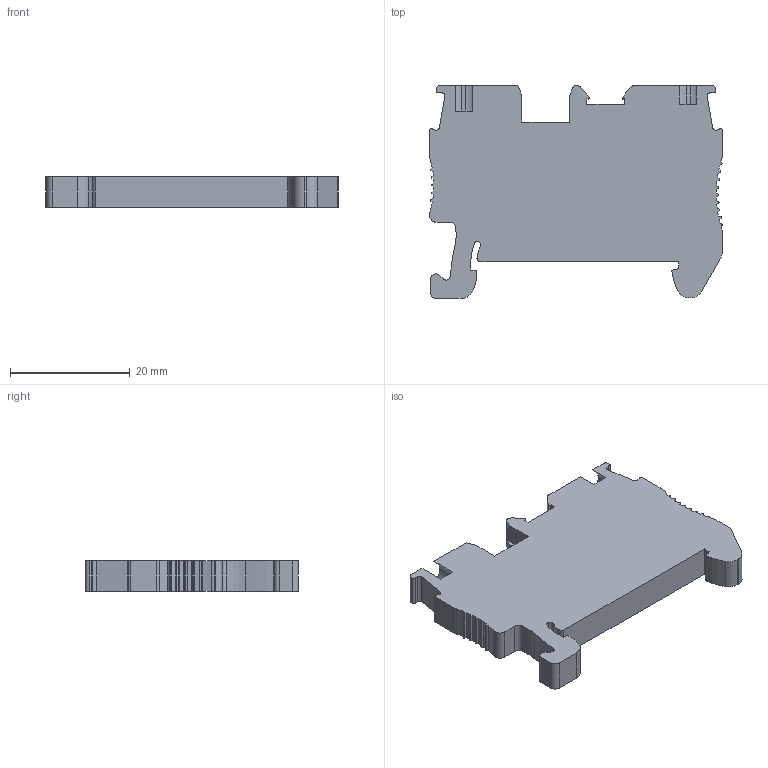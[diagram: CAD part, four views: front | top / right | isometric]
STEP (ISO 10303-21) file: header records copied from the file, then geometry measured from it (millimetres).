
FILE_DESCRIPTION(/* description */ (''),/* implementation_level */ '2;1');
FILE_NAME(/* name */ '',/* time_stamp */ '',/* author */ (''),/* organization */ (''),/* preprocessor_version */ '',/* originating_system */ '',/* authorisation */ '');
FILE_SCHEMA (('AUTOMOTIVE_DESIGN { 1 0 10303 214 3 1 1 }'));
Length unit declared in the file: millimetre
Products named in the file (1): Деталь9
Bounding box: 48.9 x 35.55 x 5.15 mm (x, y, z)
Volume: 6760.8 mm3; surface area: 4032.9 mm2
Topology: 1 solids, 1 shells, 232 faces, 681 edges, 454 vertices
Faces by surface type: plane 153, cylinder 79
Entity records: 7790 total; most frequent: CARTESIAN_POINT 1368, ORIENTED_EDGE 1362, DIRECTION 1307, EDGE_CURVE 681, LINE 521, VECTOR 521, VERTEX_POINT 454, AXIS2_PLACEMENT_3D 393
